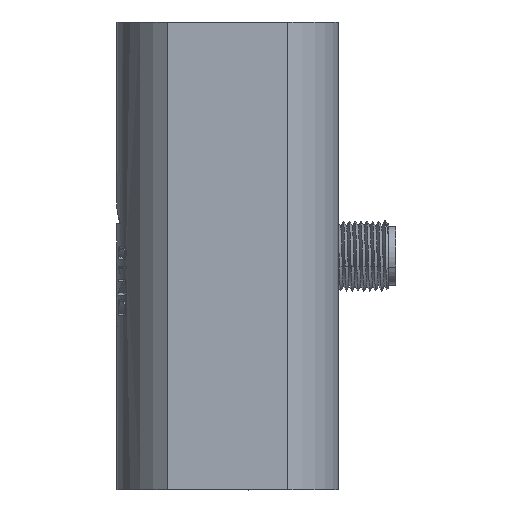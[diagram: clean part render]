
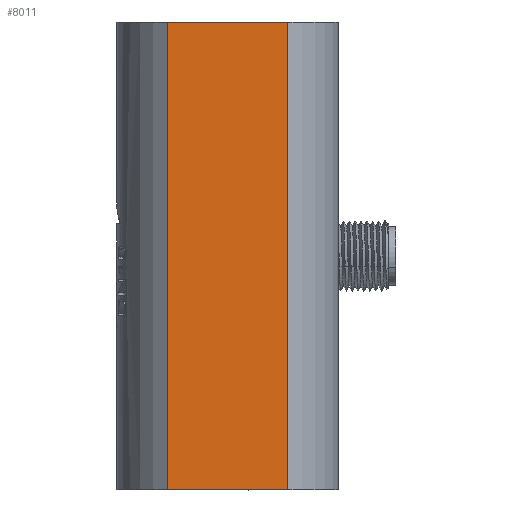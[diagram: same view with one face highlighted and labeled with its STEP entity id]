
A CAD part, front view. The second image highlights one B-rep face of the part: STEP entity #8011.
In plain terms, the highlighted planar face has unit normal (0, -1, 0).
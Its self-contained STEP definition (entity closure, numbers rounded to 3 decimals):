
#5808=FACE_OUTER_BOUND('',#10194,.T.);
#8011=ADVANCED_FACE('',(#5808),#8490,.T.);
#8490=PLANE('',#24278);
#10194=EDGE_LOOP('',(#15674,#15675,#15676,#15677));
#15674=ORIENTED_EDGE('',*,*,#20121,.T.);
#15675=ORIENTED_EDGE('',*,*,#20124,.F.);
#15676=ORIENTED_EDGE('',*,*,#20130,.F.);
#15677=ORIENTED_EDGE('',*,*,#20031,.F.);
#17561=VERTEX_POINT('',#44832);
#17562=VERTEX_POINT('',#44834);
#17628=VERTEX_POINT('',#45271);
#17631=VERTEX_POINT('',#45278);
#20031=EDGE_CURVE('',#17561,#17562,#21303,.T.);
#20121=EDGE_CURVE('',#17561,#17628,#21342,.T.);
#20124=EDGE_CURVE('',#17631,#17628,#21344,.T.);
#20130=EDGE_CURVE('',#17562,#17631,#21348,.T.);
#21303=LINE('',#44833,#22623);
#21342=LINE('',#45272,#22662);
#21344=LINE('',#45279,#22664);
#21348=LINE('',#45289,#22668);
#22623=VECTOR('',#28313,1.);
#22662=VECTOR('',#28442,1.);
#22664=VECTOR('',#28448,1.);
#22668=VECTOR('',#28458,1.);
#24278=AXIS2_PLACEMENT_3D('',#47605,#28523,#28524);
#28313=DIRECTION('',(0.,0.,1.));
#28442=DIRECTION('',(1.,0.,0.));
#28448=DIRECTION('',(0.,0.,-1.));
#28458=DIRECTION('',(1.,0.,0.));
#28523=DIRECTION('',(0.,-1.,0.));
#28524=DIRECTION('',(0.,0.,1.));
#44832=CARTESIAN_POINT('',(-10.299,-16.477,103.));
#44833=CARTESIAN_POINT('',(-10.299,-16.477,99.));
#44834=CARTESIAN_POINT('',(-10.299,-16.477,183.));
#45271=CARTESIAN_POINT('',(10.268,-16.477,103.));
#45272=CARTESIAN_POINT('',(-0.016,-16.477,103.));
#45278=CARTESIAN_POINT('',(10.268,-16.477,183.));
#45279=CARTESIAN_POINT('',(10.268,-16.477,99.));
#45289=CARTESIAN_POINT('',(-0.016,-16.477,183.));
#47605=CARTESIAN_POINT('',(-22.516,-16.477,40.));
